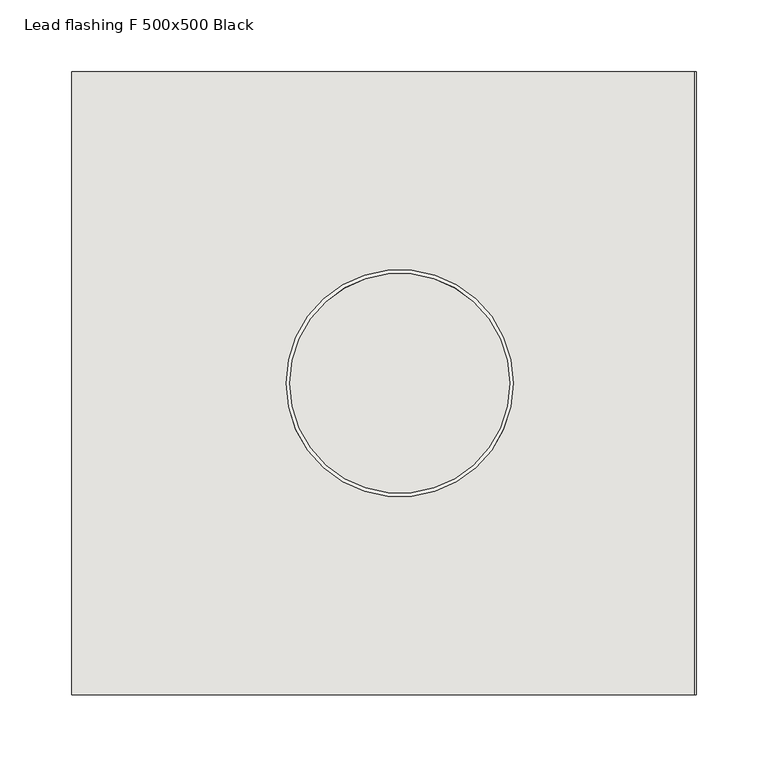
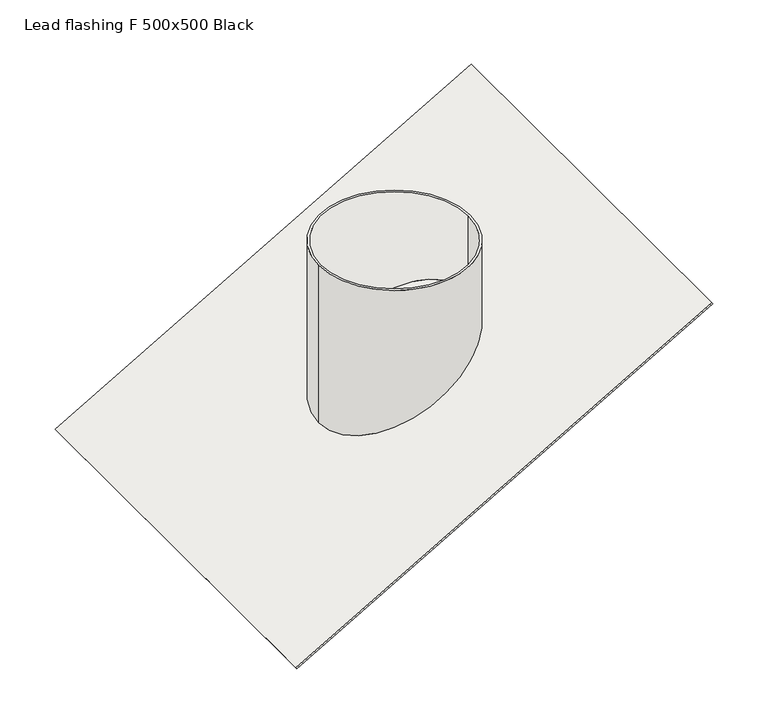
"""IFC4 building model written with IfcOpenShell, lengths in millimetres: covering geometry, NLRS_57_GM_WPB_weather slate steep roof_M&G : Lead flashing F 500x500 Black."""

from ifc_helpers import new_model, si_unit, frame, origin, place, context, project, spatial, polyline, circle_curve, ellipse_curve, source, transform, mapped, element, save
from ifc_brep_helpers import plane_surface, cylinder_surface, revolved_surface, advanced_brep


def lead_flashing_f_500x500_black_4397844b(model_context):
    return source(origin(), model_context, "Body", "AdvancedBrep", [
        advanced_brep(
        [(206.1140461, -216.5, 119.0), (205.1140461, -216.5, 120.7320508), (-227.8986558, -216.5, -129.2679492), (-226.8986558, -216.5, -131.0), (206.1140461, 216.5, 119.0), (-226.8986558, 216.5, -131.0), (-227.8986558, 216.5, -129.2679492), (205.1140461, 216.5, 120.7320508), (79.0, 0.0, 47.9200723), (-79.0, 0.0, -43.3012702), (76.5, 0.0, 46.4766967), (-76.5, 0.0, -41.8578945), (-79.0, 0.0, 129.9038106), (79.0, 0.0, 129.9038106), (-76.5, 0.0, 129.9038106), (76.5, 0.0, 129.9038106)],
        [
            (0, 1),
            (1, 2),
            (2, 3),
            (3, 0),
            (4, 5),
            (5, 6),
            (6, 7),
            (7, 4),
            (0, 4),
            (7, 1),
            (6, 2),
            (8, 9, ellipse_curve(frame((0.0, 0.0, 2.3094011), z_axis=(0.5000000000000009, 0.0, -0.8660254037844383), x_axis=(0.8660254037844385, 0.0, 0.5000000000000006)), 91.2213425, 79.0)),
            (9, 8, ellipse_curve(frame((0.0, 0.0, 2.3094011), z_axis=(0.5000000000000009, 0.0, -0.8660254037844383), x_axis=(0.8660254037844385, 0.0, 0.5000000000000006)), 91.2213425, 79.0)),
            (10, 11, ellipse_curve(frame((0.0, 0.0, 2.3094011), z_axis=(-0.5000000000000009, 0.0, 0.8660254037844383), x_axis=(-0.8660254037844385, 0.0, -0.5000000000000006)), 88.3345912, 76.5)),
            (11, 10, ellipse_curve(frame((0.0, 0.0, 2.3094011), z_axis=(-0.5000000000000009, 0.0, 0.8660254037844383), x_axis=(-0.8660254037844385, 0.0, -0.5000000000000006)), 88.3345912, 76.5)),
            (5, 3),
            (12, 13, circle_curve(frame((0.0, 0.0, 129.9038106), z_axis=(0.0, 0.0, 1.0), x_axis=(1.0, 0.0, 0.0)), 79.0)),
            (13, 12, circle_curve(frame((0.0, 0.0, 129.9038106), z_axis=(0.0, 0.0, 1.0), x_axis=(1.0, 0.0, 0.0)), 79.0)),
            (14, 15, circle_curve(frame((0.0, 0.0, 129.9038106), z_axis=(0.0, 0.0, -1.0), x_axis=(1.0, 0.0, 0.0)), 76.5)),
            (15, 14, circle_curve(frame((0.0, 0.0, 129.9038106), z_axis=(0.0, 0.0, -1.0), x_axis=(1.0, 0.0, 0.0)), 76.5)),
            (12, 9),
            (8, 13),
            (14, 11),
            (10, 15),
        ],
        [
            plane_surface(frame((206.1140461, -216.5, 119.0), z_axis=(0.0, -1.0, 0.0), x_axis=(-0.4999999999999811, 0.0, 0.8660254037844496))),
            plane_surface(frame((206.1140461, 216.5, 119.0), z_axis=(0.0, 1.0, 0.0), x_axis=(0.4999999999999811, 0.0, -0.8660254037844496))),
            plane_surface(frame((206.1140461, -216.5, 119.0), z_axis=(0.8660254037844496, 0.0, 0.4999999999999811), x_axis=(0.0, 1.0, 0.0))),
            plane_surface(frame((205.1140461, -216.5, 120.7320508), z_axis=(-0.5000000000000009, 0.0, 0.8660254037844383), x_axis=(0.0, 1.0, 0.0))),
            plane_surface(frame((-227.8986558, -216.5, -129.2679492), z_axis=(-0.8660254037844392, 0.0, -0.4999999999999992), x_axis=(0.0, 1.0, 0.0))),
            plane_surface(frame((79.0, 0.0, 129.9038106), z_axis=(0.0, 0.0, 1.0), x_axis=(0.0, 1.0, 0.0))),
            cylinder_surface(frame((0.0, 0.0, -45.6106713), z_axis=(0.0, 0.0, 1.0), x_axis=(1.0, 0.0, 0.0)), 79.0),
            revolved_surface(polyline([(76.5, 0.0, -41.85789450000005), (76.5, 0.0, 129.9038106)]), (0.0, 0.0, 0.0), (0.0, 0.0, -1.0)),
            plane_surface(frame((79.0, -216.5, 45.6106713), z_axis=(0.5000000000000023, 0.0, -0.8660254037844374), x_axis=(0.0, 1.0, 0.0))),
        ],
        [
            (0, [[1, 2, 3, 4]]),
            (1, [[5, 6, 7, 8]]),
            (2, [[-1, 9, -8, 10]]),
            (3, [[-2, -10, -7, 11], [12, 13]]),
            (3, [[14, 15]]),
            (4, [[-3, -11, -6, 16]]),
            (5, [[17, 18], [19, 20]]),
            (6, [[-17, 21, -12, 22]]),
            (6, [[-18, -22, -13, -21]]),
            (7, [[-19, 23, -14, 24]]),
            (7, [[-20, -24, -15, -23]]),
            (8, [[-4, -16, -5, -9]]),
        ],
    ),
    ])


if __name__ == "__main__":
    model = new_model("IFC4")
    model_context = context("Model", 3, world=origin())
    ifc_project = project(units=[si_unit("LENGTHUNIT", "METRE", prefix="MILLI")], contexts=[model_context])
    site = spatial("IfcSite", under=ifc_project)
    building = spatial("IfcBuilding", under=site)
    placement = place(None, origin())
    lead_flashing_f_500x500_black_shape = lead_flashing_f_500x500_black_4397844b(model_context)
    element("IfcCovering", 1, ObjectType="NLRS_57_GM_WPB_weather slate steep roof_M&G : Lead flashing F 500x500 Black", at=placement, inside=building, context=model_context, shape_type="MappedRepresentation", body=[
        mapped(lead_flashing_f_500x500_black_shape, transform((0.0, 0.0, 0.0), x_axis=(1.0, 0.0, 0.0), y_axis=(0.0, 1.0, 0.0), z_axis=(0.0, 0.0, 1.0))),
    ])
    save(model, "model.ifc")
